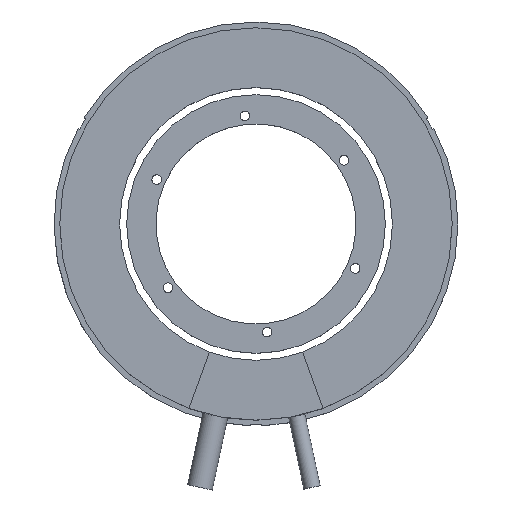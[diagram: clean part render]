
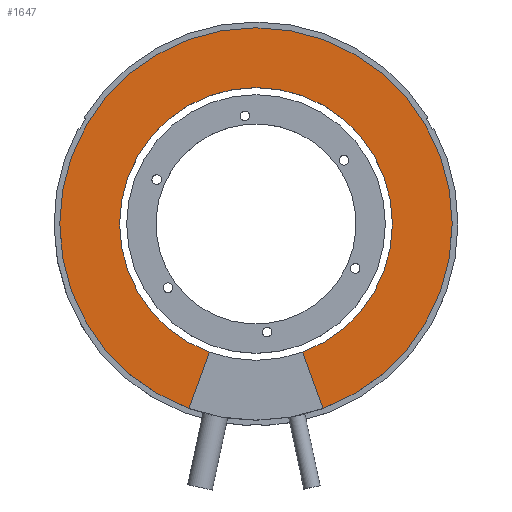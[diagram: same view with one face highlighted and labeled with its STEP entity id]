
A CAD part, top view. The second image highlights one B-rep face of the part: STEP entity #1647.
In plain terms, the highlighted planar face has unit normal (0, 0, 1).
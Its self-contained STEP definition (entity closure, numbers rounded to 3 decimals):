
#94 = CIRCLE ( 'NONE', #1048, 51. ) ;
#109 = DIRECTION ( 'NONE',  ( 0., 0., 1. ) ) ;
#185 = DIRECTION ( 'NONE',  ( -0.342, -0.94, 0. ) ) ;
#187 = EDGE_CURVE ( 'NONE', #1004, #357, #1211, .T. ) ;
#195 = CARTESIAN_POINT ( 'NONE',  ( -12.125, -33.312, 17. ) ) ;
#220 = LINE ( 'NONE', #195, #863 ) ;
#248 = ORIENTED_EDGE ( 'NONE', *, *, #1668, .F. ) ;
#288 = VERTEX_POINT ( 'NONE', #1428 ) ;
#328 = AXIS2_PLACEMENT_3D ( 'NONE', #1943, #395, #1617 ) ;
#334 = EDGE_CURVE ( 'NONE', #1833, #1051, #977, .T. ) ;
#337 = DIRECTION ( 'NONE',  ( 0., 0., 1. ) ) ;
#345 = DIRECTION ( 'NONE',  ( 0., 0., 1. ) ) ;
#350 = ORIENTED_EDGE ( 'NONE', *, *, #334, .T. ) ;
#352 = EDGE_CURVE ( 'NONE', #357, #1833, #94, .T. ) ;
#357 = VERTEX_POINT ( 'NONE', #1113 ) ;
#378 = PLANE ( 'NONE',  #924 ) ;
#395 = DIRECTION ( 'NONE',  ( 0., 0., 1. ) ) ;
#404 = ORIENTED_EDGE ( 'NONE', *, *, #352, .T. ) ;
#414 = DIRECTION ( 'NONE',  ( 0., 0., 1. ) ) ;
#431 = CARTESIAN_POINT ( 'NONE',  ( 0., 0., 17. ) ) ;
#512 = VERTEX_POINT ( 'NONE', #1640 ) ;
#568 = AXIS2_PLACEMENT_3D ( 'NONE', #717, #109, #912 ) ;
#573 = VECTOR ( 'NONE', #1812, 1000. ) ;
#579 = EDGE_CURVE ( 'NONE', #1004, #512, #1157, .T. ) ;
#582 = CARTESIAN_POINT ( 'NONE',  ( -35.45, 0., 17. ) ) ;
#664 = CARTESIAN_POINT ( 'NONE',  ( 35.45, 0., 17. ) ) ;
#671 = FACE_OUTER_BOUND ( 'NONE', #1801, .T. ) ;
#717 = CARTESIAN_POINT ( 'NONE',  ( 0., 0., 17. ) ) ;
#734 = CARTESIAN_POINT ( 'NONE',  ( -12.125, -33.312, 17. ) ) ;
#749 = DIRECTION ( 'NONE',  ( 1., 0., 0. ) ) ;
#816 = CIRCLE ( 'NONE', #1086, 35.45 ) ;
#863 = VECTOR ( 'NONE', #185, 1000. ) ;
#912 = DIRECTION ( 'NONE',  ( 1., 0., 0. ) ) ;
#924 = AXIS2_PLACEMENT_3D ( 'NONE', #664, #1618, #1919 ) ;
#977 = CIRCLE ( 'NONE', #1303, 51. ) ;
#1004 = VERTEX_POINT ( 'NONE', #1143 ) ;
#1020 = AXIS2_PLACEMENT_3D ( 'NONE', #1234, #414, #1961 ) ;
#1048 = AXIS2_PLACEMENT_3D ( 'NONE', #1577, #345, #1107 ) ;
#1051 = VERTEX_POINT ( 'NONE', #1387 ) ;
#1061 = ORIENTED_EDGE ( 'NONE', *, *, #1794, .F. ) ;
#1081 = ORIENTED_EDGE ( 'NONE', *, *, #1222, .F. ) ;
#1083 = ORIENTED_EDGE ( 'NONE', *, *, #187, .T. ) ;
#1086 = AXIS2_PLACEMENT_3D ( 'NONE', #431, #1677, #749 ) ;
#1095 = VERTEX_POINT ( 'NONE', #734 ) ;
#1107 = DIRECTION ( 'NONE',  ( 1., 0., 0. ) ) ;
#1113 = CARTESIAN_POINT ( 'NONE',  ( 51., 0., 17. ) ) ;
#1115 = CIRCLE ( 'NONE', #1020, 35.45 ) ;
#1126 = EDGE_CURVE ( 'NONE', #512, #288, #1115, .T. ) ;
#1143 = CARTESIAN_POINT ( 'NONE',  ( 17.443, -47.924, 17. ) ) ;
#1157 = LINE ( 'NONE', #1931, #573 ) ;
#1182 = VERTEX_POINT ( 'NONE', #582 ) ;
#1190 = CIRCLE ( 'NONE', #568, 35.45 ) ;
#1211 = CIRCLE ( 'NONE', #328, 51. ) ;
#1222 = EDGE_CURVE ( 'NONE', #288, #1182, #816, .T. ) ;
#1229 = CARTESIAN_POINT ( 'NONE',  ( -51., 0., 17. ) ) ;
#1234 = CARTESIAN_POINT ( 'NONE',  ( 0., 0., 17. ) ) ;
#1303 = AXIS2_PLACEMENT_3D ( 'NONE', #1445, #337, #1722 ) ;
#1364 = ORIENTED_EDGE ( 'NONE', *, *, #579, .F. ) ;
#1380 = ORIENTED_EDGE ( 'NONE', *, *, #1126, .F. ) ;
#1387 = CARTESIAN_POINT ( 'NONE',  ( -17.443, -47.924, 17. ) ) ;
#1428 = CARTESIAN_POINT ( 'NONE',  ( 35.45, 0., 17. ) ) ;
#1445 = CARTESIAN_POINT ( 'NONE',  ( 0., 0., 17. ) ) ;
#1577 = CARTESIAN_POINT ( 'NONE',  ( 0., 0., 17. ) ) ;
#1617 = DIRECTION ( 'NONE',  ( 1., 0., 0. ) ) ;
#1618 = DIRECTION ( 'NONE',  ( 0., 0., 1. ) ) ;
#1640 = CARTESIAN_POINT ( 'NONE',  ( 12.125, -33.312, 17. ) ) ;
#1647 = ADVANCED_FACE ( 'NONE', ( #671 ), #378, .T. ) ;
#1668 = EDGE_CURVE ( 'NONE', #1095, #1051, #220, .T. ) ;
#1677 = DIRECTION ( 'NONE',  ( 0., 0., 1. ) ) ;
#1722 = DIRECTION ( 'NONE',  ( 1., 0., 0. ) ) ;
#1794 = EDGE_CURVE ( 'NONE', #1182, #1095, #1190, .T. ) ;
#1801 = EDGE_LOOP ( 'NONE', ( #1364, #1083, #404, #350, #248, #1061, #1081, #1380 ) ) ;
#1812 = DIRECTION ( 'NONE',  ( -0.342, 0.94, 0. ) ) ;
#1833 = VERTEX_POINT ( 'NONE', #1229 ) ;
#1919 = DIRECTION ( 'NONE',  ( 1., 0., 0. ) ) ;
#1931 = CARTESIAN_POINT ( 'NONE',  ( 12.125, -33.312, 17. ) ) ;
#1943 = CARTESIAN_POINT ( 'NONE',  ( 0., 0., 17. ) ) ;
#1961 = DIRECTION ( 'NONE',  ( 1., 0., 0. ) ) ;
